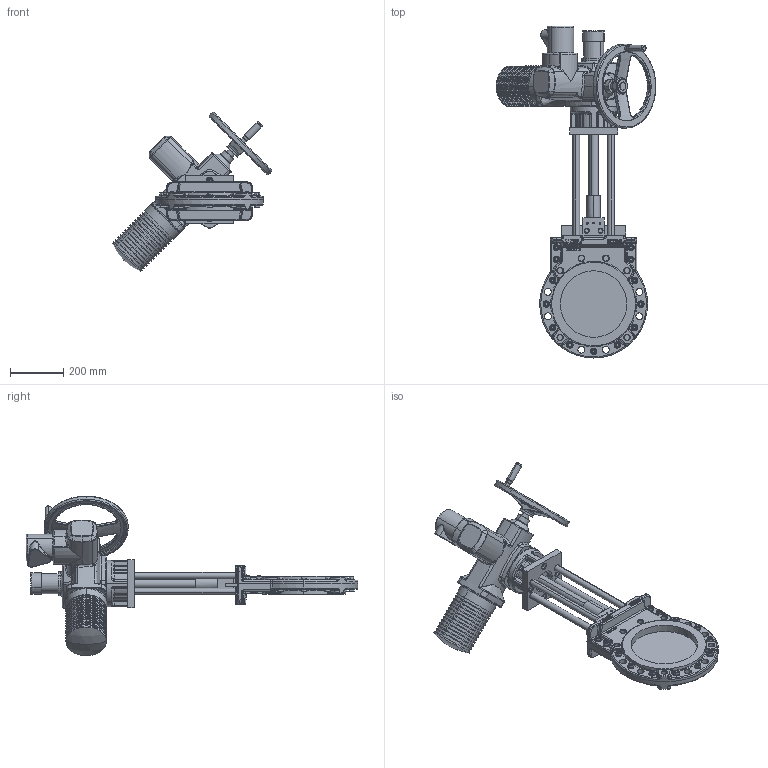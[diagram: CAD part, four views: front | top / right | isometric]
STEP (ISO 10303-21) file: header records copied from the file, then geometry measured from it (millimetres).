
FILE_DESCRIPTION (( 'STEP AP214' ), '1' );
FILE_NAME ('MGE DN 0250 PN16 (SA 14.2).STEP', '2015-09-23T08:47:15', ( 'admin' ), ( 'Hewlett-Packard Company' ), 'SwSTEP 2.0', 'SolidWorks 2013', '' );
FILE_SCHEMA (( 'AUTOMOTIVE_DESIGN' ));
Length unit declared in the file: millimetre
Products named in the file (1): MGE DN 0250 PN16 (SA 14.2)
Bounding box: 599.22 x 1245.5 x 599.22 mm (x, y, z)
Volume: 25038189.5 mm3; surface area: 1788669 mm2
Topology: 68 solids, 80 shells, 3044 faces, 7102 edges, 4284 vertices
Faces by surface type: plane 1035, cylinder 853, cone 484, bspline 373, torus 266, sphere 33
Entity records: 147415 total; most frequent: CARTESIAN_POINT 45784, ORIENTED_EDGE 14024, DIRECTION 13989, EDGE_CURVE 7012, AXIS2_PLACEMENT_3D 5614, VERTEX_POINT 4284, EDGE_LOOP 3364, UNCERTAINTY_MEASURE_WITH_UNIT 3112
